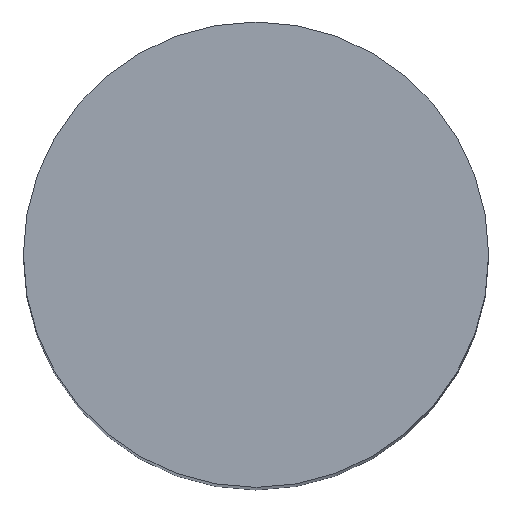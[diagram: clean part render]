
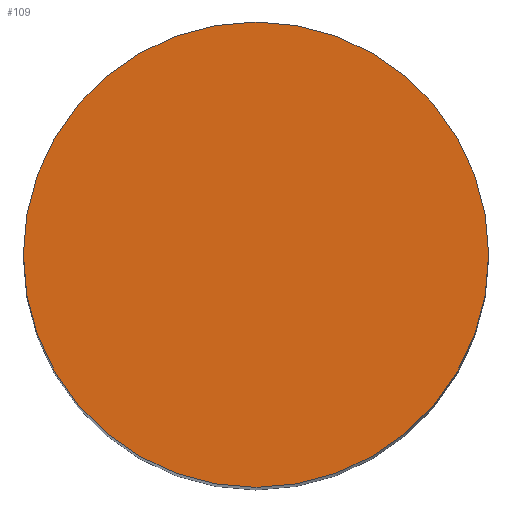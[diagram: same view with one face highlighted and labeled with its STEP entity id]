
A CAD part, top view. The second image highlights one B-rep face of the part: STEP entity #109.
In plain terms, the highlighted planar face has unit normal (0, 0, 1).
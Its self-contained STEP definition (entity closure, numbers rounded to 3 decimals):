
#24 = VERTEX_POINT('',#25);
#25 = CARTESIAN_POINT('',(8.,0.,51.));
#32 = CYLINDRICAL_SURFACE('',#33,8.);
#33 = AXIS2_PLACEMENT_3D('',#34,#35,#36);
#34 = CARTESIAN_POINT('',(0.,0.,0.));
#35 = DIRECTION('',(-0.,-0.,-1.));
#36 = DIRECTION('',(1.,0.,-0.));
#51 = EDGE_CURVE('',#24,#24,#52,.T.);
#52 = SURFACE_CURVE('',#53,(#58,#65),.PCURVE_S1.);
#53 = CIRCLE('',#54,8.);
#54 = AXIS2_PLACEMENT_3D('',#55,#56,#57);
#55 = CARTESIAN_POINT('',(0.,0.,51.));
#56 = DIRECTION('',(0.,0.,1.));
#57 = DIRECTION('',(1.,0.,-0.));
#58 = PCURVE('',#32,#59);
#59 = DEFINITIONAL_REPRESENTATION('',(#60),#64);
#60 = LINE('',#61,#62);
#61 = CARTESIAN_POINT('',(-0.,-51.));
#62 = VECTOR('',#63,1.);
#63 = DIRECTION('',(-1.,0.));
#64 = ( GEOMETRIC_REPRESENTATION_CONTEXT(2) 
PARAMETRIC_REPRESENTATION_CONTEXT() REPRESENTATION_CONTEXT('2D SPACE',''
  ) );
#65 = PCURVE('',#66,#71);
#66 = PLANE('',#67);
#67 = AXIS2_PLACEMENT_3D('',#68,#69,#70);
#68 = CARTESIAN_POINT('',(0.,0.,51.));
#69 = DIRECTION('',(0.,0.,1.));
#70 = DIRECTION('',(1.,0.,-0.));
#71 = DEFINITIONAL_REPRESENTATION('',(#72),#76);
#72 = CIRCLE('',#73,8.);
#73 = AXIS2_PLACEMENT_2D('',#74,#75);
#74 = CARTESIAN_POINT('',(0.,0.));
#75 = DIRECTION('',(1.,0.));
#76 = ( GEOMETRIC_REPRESENTATION_CONTEXT(2) 
PARAMETRIC_REPRESENTATION_CONTEXT() REPRESENTATION_CONTEXT('2D SPACE',''
  ) );
#109 = ADVANCED_FACE('',(#110),#66,.T.);
#110 = FACE_BOUND('',#111,.T.);
#111 = EDGE_LOOP('',(#112));
#112 = ORIENTED_EDGE('',*,*,#51,.T.);
